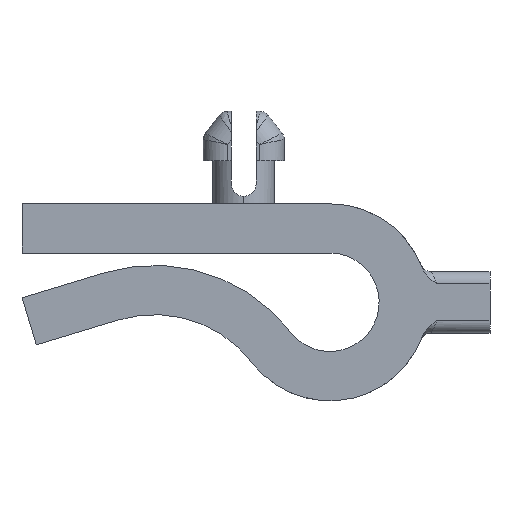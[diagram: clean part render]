
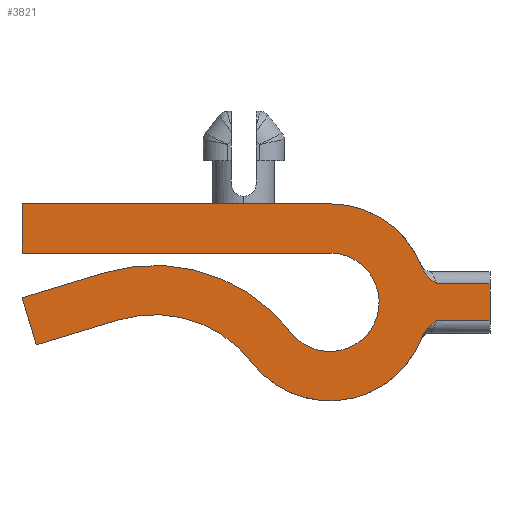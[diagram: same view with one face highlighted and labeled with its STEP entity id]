
A CAD part, left-side view. The second image highlights one B-rep face of the part: STEP entity #3821.
In plain terms, the highlighted planar face has unit normal (-1, 0, 0).
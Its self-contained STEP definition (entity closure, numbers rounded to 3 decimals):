
#70=CARTESIAN_POINT('Vertex',(0.,-13.,-1.5)) ;
#73=CARTESIAN_POINT('Line Origine',(0.,-10.,-1.5)) ;
#77=CARTESIAN_POINT('Vertex',(0.,-8.671,-1.5)) ;
#317=CARTESIAN_POINT('Line Origine',(0.,-10.,1.5)) ;
#321=CARTESIAN_POINT('Vertex',(0.,-8.671,1.5)) ;
#323=CARTESIAN_POINT('Vertex',(0.,-13.,1.5)) ;
#365=CARTESIAN_POINT('Line Origine',(0.,-13.,0.)) ;
#1349=CARTESIAN_POINT('Line Origine',(0.,3.5,8.)) ;
#1353=CARTESIAN_POINT('Vertex',(0.,7.,8.)) ;
#1355=CARTESIAN_POINT('Vertex',(0.,0.,8.)) ;
#1376=CARTESIAN_POINT('Vertex',(0.,25.,8.)) ;
#1379=CARTESIAN_POINT('Line Origine',(0.,16.,8.)) ;
#1432=CARTESIAN_POINT('Vertex',(0.,25.,4.)) ;
#1437=CARTESIAN_POINT('Line Origine',(0.,25.,6.)) ;
#1531=CARTESIAN_POINT('Axis2P3D Location',(0.,0.,0.)) ;
#1535=CARTESIAN_POINT('Vertex',(0.,-7.522,-2.724)) ;
#1537=CARTESIAN_POINT('Vertex',(0.,6.332,-4.889)) ;
#1545=CARTESIAN_POINT('Axis2P3D Location',(0.,0.,0.)) ;
#1549=CARTESIAN_POINT('Vertex',(0.,-7.522,2.724)) ;
#1820=CARTESIAN_POINT('Control Point',(0.,-7.522,-2.724)) ;
#1821=CARTESIAN_POINT('Control Point',(0.,-7.659,-2.345)) ;
#1822=CARTESIAN_POINT('Control Point',(0.,-7.945,-2.06)) ;
#1823=CARTESIAN_POINT('Control Point',(0.,-8.183,-1.881)) ;
#1824=CARTESIAN_POINT('Control Point',(0.,-8.43,-1.696)) ;
#1825=CARTESIAN_POINT('Control Point',(0.,-8.671,-1.5)) ;
#1839=CARTESIAN_POINT('Axis2P3D Location',(0.,14.248,-11.)) ;
#1843=CARTESIAN_POINT('Vertex',(0.,17.142,-1.428)) ;
#1863=CARTESIAN_POINT('Line Origine',(0.,20.492,-2.441)) ;
#1867=CARTESIAN_POINT('Vertex',(0.,23.842,-3.454)) ;
#1887=CARTESIAN_POINT('Line Origine',(0.,24.421,-1.539)) ;
#1891=CARTESIAN_POINT('Vertex',(0.,25.,0.375)) ;
#1911=CARTESIAN_POINT('Line Origine',(0.,21.65,1.388)) ;
#1915=CARTESIAN_POINT('Vertex',(0.,18.3,2.401)) ;
#1935=CARTESIAN_POINT('Axis2P3D Location',(0.,14.248,-11.)) ;
#1939=CARTESIAN_POINT('Vertex',(0.,3.166,-2.444)) ;
#1959=CARTESIAN_POINT('Axis2P3D Location',(0.,0.,0.)) ;
#1963=CARTESIAN_POINT('Vertex',(0.,0.,4.)) ;
#1983=CARTESIAN_POINT('Line Origine',(0.,12.5,4.)) ;
#2058=CARTESIAN_POINT('Control Point',(0.,-7.522,2.724)) ;
#2059=CARTESIAN_POINT('Control Point',(0.,-7.659,2.345)) ;
#2060=CARTESIAN_POINT('Control Point',(0.,-7.945,2.06)) ;
#2061=CARTESIAN_POINT('Control Point',(0.,-8.184,1.881)) ;
#2062=CARTESIAN_POINT('Control Point',(0.,-8.43,1.697)) ;
#2063=CARTESIAN_POINT('Control Point',(0.,-8.671,1.5)) ;
#3797=CARTESIAN_POINT('Axis2P3D Location',(0.,0.,0.)) ;
#74=DIRECTION('Vector Direction',(0.,-1.,0.)) ;
#318=DIRECTION('Vector Direction',(0.,1.,0.)) ;
#366=DIRECTION('Vector Direction',(0.,0.,1.)) ;
#1350=DIRECTION('Vector Direction',(0.,1.,0.)) ;
#1380=DIRECTION('Vector Direction',(0.,1.,0.)) ;
#1438=DIRECTION('Vector Direction',(0.,0.,-1.)) ;
#1532=DIRECTION('Axis2P3D Direction',(1.,0.,0.)) ;
#1546=DIRECTION('Axis2P3D Direction',(1.,0.,0.)) ;
#1840=DIRECTION('Axis2P3D Direction',(1.,0.,0.)) ;
#1864=DIRECTION('Vector Direction',(0.,-0.957,0.289)) ;
#1888=DIRECTION('Vector Direction',(0.,-0.289,-0.957)) ;
#1912=DIRECTION('Vector Direction',(0.,0.957,-0.289)) ;
#1936=DIRECTION('Axis2P3D Direction',(1.,0.,0.)) ;
#1960=DIRECTION('Axis2P3D Direction',(1.,0.,0.)) ;
#1984=DIRECTION('Vector Direction',(0.,-1.,0.)) ;
#3798=DIRECTION('Axis2P3D Direction',(1.,0.,0.)) ;
#3799=DIRECTION('Axis2P3D XDirection',(0.,1.,0.)) ;
#1533=AXIS2_PLACEMENT_3D('Circle Axis2P3D',#1531,#1532,$) ;
#1547=AXIS2_PLACEMENT_3D('Circle Axis2P3D',#1545,#1546,$) ;
#1841=AXIS2_PLACEMENT_3D('Circle Axis2P3D',#1839,#1840,$) ;
#1937=AXIS2_PLACEMENT_3D('Circle Axis2P3D',#1935,#1936,$) ;
#1961=AXIS2_PLACEMENT_3D('Circle Axis2P3D',#1959,#1960,$) ;
#3800=AXIS2_PLACEMENT_3D('Plane Axis2P3D',#3797,#3798,#3799) ;
#3803=ORIENTED_EDGE('',*,*,#79,.T.) ;
#3804=ORIENTED_EDGE('',*,*,#369,.T.) ;
#3805=ORIENTED_EDGE('',*,*,#325,.F.) ;
#3806=ORIENTED_EDGE('',*,*,#2064,.T.) ;
#3807=ORIENTED_EDGE('',*,*,#1551,.F.) ;
#3808=ORIENTED_EDGE('',*,*,#1357,.F.) ;
#3809=ORIENTED_EDGE('',*,*,#1383,.F.) ;
#3810=ORIENTED_EDGE('',*,*,#1441,.F.) ;
#3811=ORIENTED_EDGE('',*,*,#1987,.F.) ;
#3812=ORIENTED_EDGE('',*,*,#1965,.F.) ;
#3813=ORIENTED_EDGE('',*,*,#1941,.F.) ;
#3814=ORIENTED_EDGE('',*,*,#1917,.F.) ;
#3815=ORIENTED_EDGE('',*,*,#1893,.F.) ;
#3816=ORIENTED_EDGE('',*,*,#1869,.F.) ;
#3817=ORIENTED_EDGE('',*,*,#1845,.F.) ;
#3818=ORIENTED_EDGE('',*,*,#1539,.F.) ;
#3819=ORIENTED_EDGE('',*,*,#1826,.T.) ;
#75=VECTOR('Line Direction',#74,1.) ;
#319=VECTOR('Line Direction',#318,1.) ;
#367=VECTOR('Line Direction',#366,1.) ;
#1351=VECTOR('Line Direction',#1350,1.) ;
#1381=VECTOR('Line Direction',#1380,1.) ;
#1439=VECTOR('Line Direction',#1438,1.) ;
#1865=VECTOR('Line Direction',#1864,1.) ;
#1889=VECTOR('Line Direction',#1888,1.) ;
#1913=VECTOR('Line Direction',#1912,1.) ;
#1985=VECTOR('Line Direction',#1984,1.) ;
#3821=ADVANCED_FACE('CLIP D',(#3820),#3801,.F.) ;
#1819=B_SPLINE_CURVE_WITH_KNOTS('',5,(#1820,#1821,#1822,#1823,#1824,#1825),.UNSPECIFIED.,.F.,.U.,(6,6),(0.,2.767),.UNSPECIFIED.) ;
#2057=B_SPLINE_CURVE_WITH_KNOTS('',5,(#2058,#2059,#2060,#2061,#2062,#2063),.UNSPECIFIED.,.F.,.U.,(6,6),(0.,2.767),.UNSPECIFIED.) ;
#1534=CIRCLE('generated circle',#1533,8.) ;
#1548=CIRCLE('generated circle',#1547,8.) ;
#1842=CIRCLE('generated circle',#1841,10.) ;
#1938=CIRCLE('generated circle',#1937,14.) ;
#1962=CIRCLE('generated circle',#1961,4.) ;
#79=EDGE_CURVE('',#78,#71,#76,.T.) ;
#325=EDGE_CURVE('',#322,#324,#320,.F.) ;
#369=EDGE_CURVE('',#71,#324,#368,.T.) ;
#1357=EDGE_CURVE('',#1354,#1356,#1352,.F.) ;
#1383=EDGE_CURVE('',#1377,#1354,#1382,.F.) ;
#1441=EDGE_CURVE('',#1433,#1377,#1440,.F.) ;
#1539=EDGE_CURVE('',#1536,#1538,#1534,.T.) ;
#1551=EDGE_CURVE('',#1356,#1550,#1548,.T.) ;
#1826=EDGE_CURVE('',#1536,#78,#1819,.T.) ;
#1845=EDGE_CURVE('',#1538,#1844,#1842,.F.) ;
#1869=EDGE_CURVE('',#1844,#1868,#1866,.F.) ;
#1893=EDGE_CURVE('',#1868,#1892,#1890,.F.) ;
#1917=EDGE_CURVE('',#1892,#1916,#1914,.F.) ;
#1941=EDGE_CURVE('',#1916,#1940,#1938,.T.) ;
#1965=EDGE_CURVE('',#1940,#1964,#1962,.F.) ;
#1987=EDGE_CURVE('',#1964,#1433,#1986,.F.) ;
#2064=EDGE_CURVE('',#322,#1550,#2057,.F.) ;
#3802=EDGE_LOOP('',(#3803,#3804,#3805,#3806,#3807,#3808,#3809,#3810,#3811,#3812,#3813,#3814,#3815,#3816,#3817,#3818,#3819)) ;
#3820=FACE_OUTER_BOUND('',#3802,.T.) ;
#76=LINE('Line',#73,#75) ;
#320=LINE('Line',#317,#319) ;
#368=LINE('Line',#365,#367) ;
#1352=LINE('Line',#1349,#1351) ;
#1382=LINE('Line',#1379,#1381) ;
#1440=LINE('Line',#1437,#1439) ;
#1866=LINE('Line',#1863,#1865) ;
#1890=LINE('Line',#1887,#1889) ;
#1914=LINE('Line',#1911,#1913) ;
#1986=LINE('Line',#1983,#1985) ;
#3801=PLANE('Plane',#3800) ;
#71=VERTEX_POINT('',#70) ;
#78=VERTEX_POINT('',#77) ;
#322=VERTEX_POINT('',#321) ;
#324=VERTEX_POINT('',#323) ;
#1354=VERTEX_POINT('',#1353) ;
#1356=VERTEX_POINT('',#1355) ;
#1377=VERTEX_POINT('',#1376) ;
#1433=VERTEX_POINT('',#1432) ;
#1536=VERTEX_POINT('',#1535) ;
#1538=VERTEX_POINT('',#1537) ;
#1550=VERTEX_POINT('',#1549) ;
#1844=VERTEX_POINT('',#1843) ;
#1868=VERTEX_POINT('',#1867) ;
#1892=VERTEX_POINT('',#1891) ;
#1916=VERTEX_POINT('',#1915) ;
#1940=VERTEX_POINT('',#1939) ;
#1964=VERTEX_POINT('',#1963) ;
